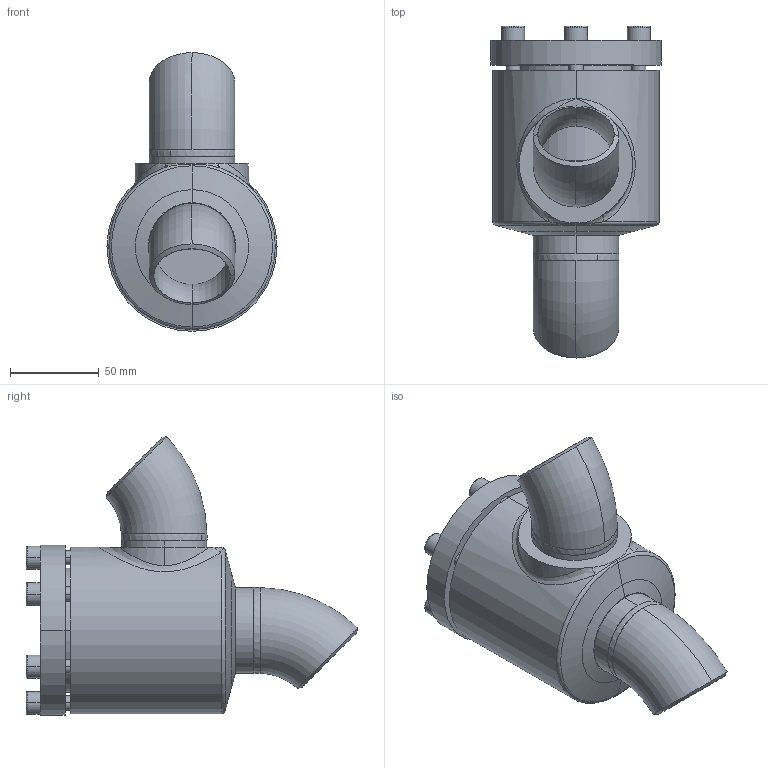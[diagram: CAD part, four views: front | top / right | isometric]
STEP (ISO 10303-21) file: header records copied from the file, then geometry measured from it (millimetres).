
FILE_DESCRIPTION (( 'STEP AP214' ), '1' );
FILE_NAME ('RV28300D14-DN040_R1_PS40.STEP', '2006-04-28T05:15:03', ( 'Herr Grams' ), ( 'AWP GmbH' ), 'SwSTEP 2.0', 'SolidWorks 2002296', '' );
FILE_SCHEMA (( 'AUTOMOTIVE_DESIGN' ));
Length unit declared in the file: millimetre
Products named in the file (9): RV28300D14-DN040_R1_PS40; Gehäuse-kpl16300-DN040_R1_Standard; Gehäuse16300-DN040_Standard; Rohrbogen 45°_R1-Fase_Rohrbogen-DN040-45°; bead16300-Geh-040-2_Standard; bead16300-Geh-040-1_Standard; RV28300E15_Deck+Schr-DN40-50_Standard; Deckel28300E15-DN40-50_Standard; Zylinderschraube-DIN912_M 8x 25
Assembly tree (14 placements, depth 3):
  RV28300D14-DN040_R1_PS40
    RV28300E15_Deck+Schr-DN40-50_Standard
      Deckel28300E15-DN40-50_Standard
      Zylinderschraube-DIN912_M 8x 25  x6
    Gehäuse-kpl16300-DN040_R1_Standard
      Rohrbogen 45°_R1-Fase_Rohrbogen-DN040-45°  x2
      Gehäuse16300-DN040_Standard
      bead16300-Geh-040-2_Standard
      bead16300-Geh-040-1_Standard
Bounding box: 96 x 187.38 x 157.38 mm (x, y, z)
Volume: 584313.8 mm3; surface area: 130942.2 mm2
Topology: 12 solids, 12 shells, 208 faces, 467 edges, 297 vertices
Faces by surface type: plane 76, cylinder 61, cone 38, torus 22, bspline 11
Entity records: 31345 total; most frequent: CARTESIAN_POINT 28363, DIRECTION 536, ORIENTED_EDGE 510, EDGE_CURVE 255, AXIS2_PLACEMENT_3D 227, VERTEX_POINT 163, EDGE_LOOP 134, CIRCLE 111
